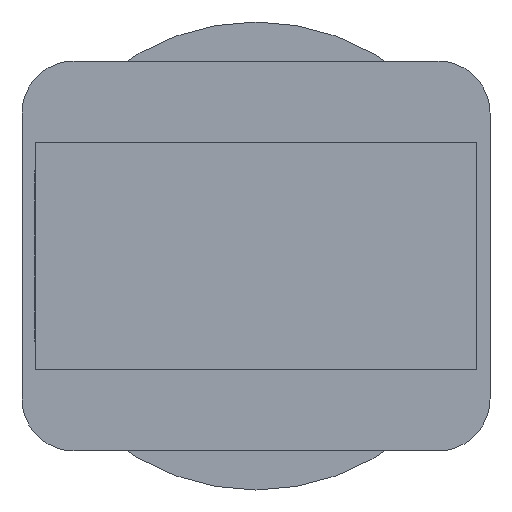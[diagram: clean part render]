
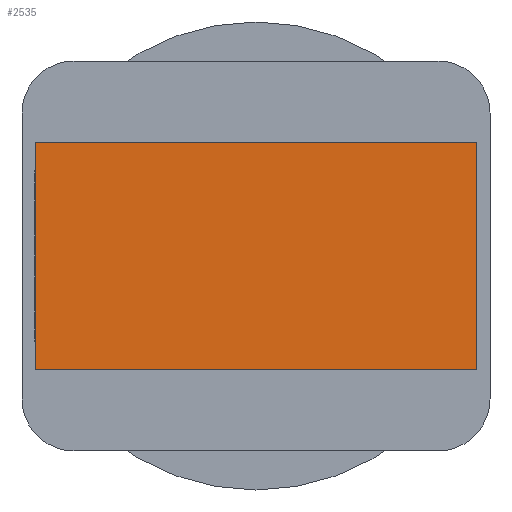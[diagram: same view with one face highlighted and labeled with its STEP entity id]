
A CAD part, front view. The second image highlights one B-rep face of the part: STEP entity #2535.
In plain terms, the highlighted planar face has unit normal (0, -1, 0).
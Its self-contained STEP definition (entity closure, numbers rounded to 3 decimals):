
#160 = EDGE_CURVE ( 'NONE', #1985, #13102, #6948, .T. ) ;
#422 = ORIENTED_EDGE ( 'NONE', *, *, #4568, .F. ) ;
#499 = CARTESIAN_POINT ( 'NONE',  ( 17., 0., 8.75 ) ) ;
#1281 = LINE ( 'NONE', #11700, #6892 ) ;
#1982 = CARTESIAN_POINT ( 'NONE',  ( 0., 0., -8.75 ) ) ;
#1985 = VERTEX_POINT ( 'NONE', #9602 ) ;
#2145 = CARTESIAN_POINT ( 'NONE',  ( 17., 0., 8.75 ) ) ;
#2535 = ADVANCED_FACE ( 'NONE', ( #15396 ), #7478, .F. ) ;
#3097 = DIRECTION ( 'NONE',  ( 1., 0., 0. ) ) ;
#3151 = VECTOR ( 'NONE', #3097, 1000. ) ;
#3679 = DIRECTION ( 'NONE',  ( 0., 0., 1. ) ) ;
#4017 = LINE ( 'NONE', #2145, #13399 ) ;
#4568 = EDGE_CURVE ( 'NONE', #12931, #9828, #1281, .T. ) ;
#5353 = DIRECTION ( 'NONE',  ( 0., 0., -1. ) ) ;
#5415 = DIRECTION ( 'NONE',  ( 1., 0., 0. ) ) ;
#5418 = EDGE_CURVE ( 'NONE', #13102, #9828, #4017, .T. ) ;
#6892 = VECTOR ( 'NONE', #5415, 1000. ) ;
#6942 = ORIENTED_EDGE ( 'NONE', *, *, #160, .T. ) ;
#6948 = LINE ( 'NONE', #1982, #3151 ) ;
#7478 = PLANE ( 'NONE',  #15313 ) ;
#7528 = ORIENTED_EDGE ( 'NONE', *, *, #9333, .T. ) ;
#8724 = DIRECTION ( 'NONE',  ( 0., 1., 0. ) ) ;
#9333 = EDGE_CURVE ( 'NONE', #12931, #1985, #12663, .T. ) ;
#9602 = CARTESIAN_POINT ( 'NONE',  ( -17., 0., -8.75 ) ) ;
#9741 = DIRECTION ( 'NONE',  ( 0., 0., 1. ) ) ;
#9828 = VERTEX_POINT ( 'NONE', #499 ) ;
#11556 = CARTESIAN_POINT ( 'NONE',  ( -17., 0., 8.75 ) ) ;
#11700 = CARTESIAN_POINT ( 'NONE',  ( -17., 0., 8.75 ) ) ;
#12394 = ORIENTED_EDGE ( 'NONE', *, *, #5418, .T. ) ;
#12663 = LINE ( 'NONE', #11556, #13657 ) ;
#12931 = VERTEX_POINT ( 'NONE', #16192 ) ;
#13102 = VERTEX_POINT ( 'NONE', #15211 ) ;
#13399 = VECTOR ( 'NONE', #9741, 1000. ) ;
#13657 = VECTOR ( 'NONE', #5353, 1000. ) ;
#15211 = CARTESIAN_POINT ( 'NONE',  ( 17., 0., -8.75 ) ) ;
#15313 = AXIS2_PLACEMENT_3D ( 'NONE', #16380, #8724, #3679 ) ;
#15396 = FACE_OUTER_BOUND ( 'NONE', #15741, .T. ) ;
#15741 = EDGE_LOOP ( 'NONE', ( #12394, #422, #7528, #6942 ) ) ;
#16192 = CARTESIAN_POINT ( 'NONE',  ( -17., 0., 8.75 ) ) ;
#16380 = CARTESIAN_POINT ( 'NONE',  ( -17., 0., 8.75 ) ) ;
